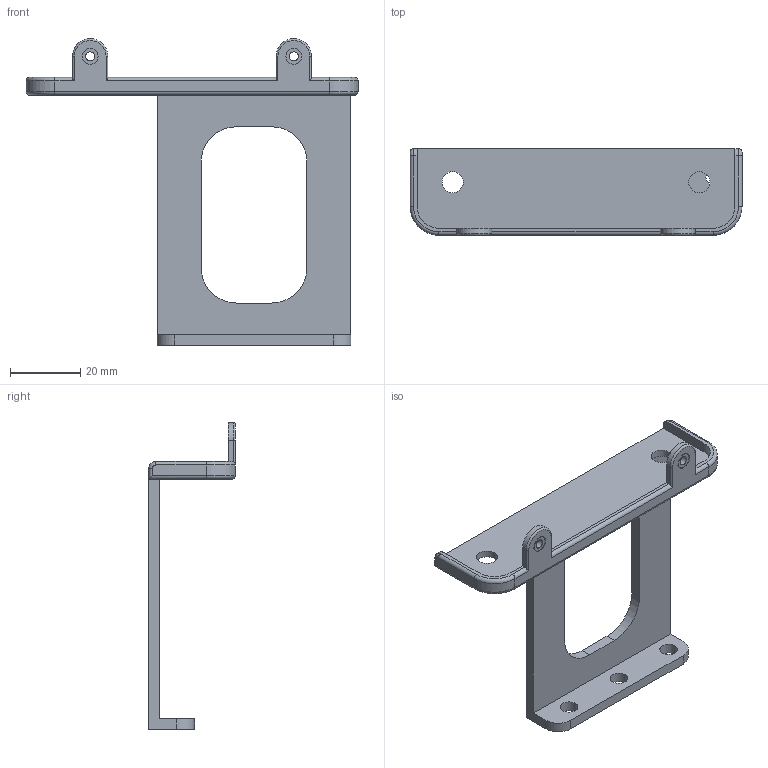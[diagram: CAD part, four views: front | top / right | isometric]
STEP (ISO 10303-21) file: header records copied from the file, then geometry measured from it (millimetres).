
FILE_DESCRIPTION(/* description */ (''),/* implementation_level */ '2;1');
FILE_NAME(/* name */ 'Enclosure holder_left.step',/* time_stamp */ '2025-06-18T23:40:56-07:00',/* author */ (''),/* organization */ (''),/* preprocessor_version */ 'ST-DEVELOPER v20.1',/* originating_system */ 'Autodesk Translation Framework v14.10.0.0',/* authorisation */ '');
FILE_SCHEMA (('AUTOMOTIVE_DESIGN { 1 0 10303 214 3 1 1 }'));
Length unit declared in the file: millimetre
Products named in the file (1): Enclosure holder_left
Bounding box: 94.2 x 24.57 x 87 mm (x, y, z)
Volume: 14481.4 mm3; surface area: 13142.3 mm2
Topology: 1 solids, 1 shells, 73 faces, 189 edges, 120 vertices
Faces by surface type: cylinder 37, plane 28, torus 6, bspline 2
Full cylindrical faces by diameter (mm): 2.6 x2, 4.5 x2, 5 x3, 6 x2
Entity records: 2339 total; most frequent: CARTESIAN_POINT 431, DIRECTION 405, ORIENTED_EDGE 378, EDGE_CURVE 189, AXIS2_PLACEMENT_3D 148, VERTEX_POINT 120, LINE 109, VECTOR 109
